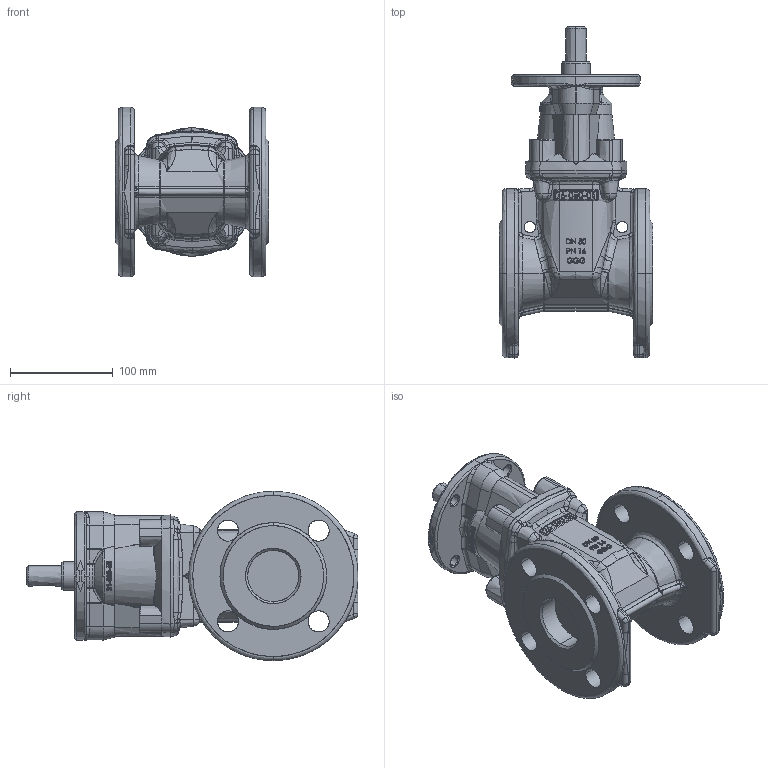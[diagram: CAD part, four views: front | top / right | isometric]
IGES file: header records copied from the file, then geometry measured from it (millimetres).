
Start section: SolidWorks IGES file using analytic representation for surfaces
Global section: file name: C:\outline drawing\15\1505042016\1505042016.IGS; native system: SolidWorks 2008; preprocessor: SolidWorks 2008; author: ch_xmm; date: 100921.163945; units: millimetre
Bounding box: 150 x 323.5 x 165 mm (x, y, z)
Surface area: 227390.1 mm2 (no closed solid volume)
Topology: 0 solids, 0 shells, 1215 faces, 14859 edges, 14803 vertices
Faces by surface type: bspline 886, revolution 329
